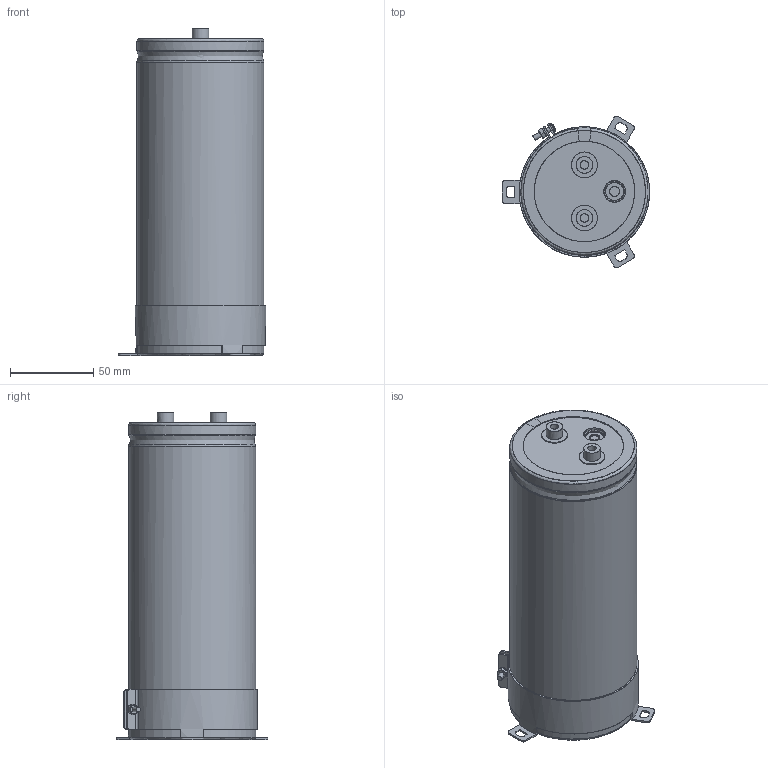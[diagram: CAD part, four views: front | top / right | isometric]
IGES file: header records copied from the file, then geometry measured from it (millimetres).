
Start section: JAMA-IS VERSION  1.0
Bounding box: 88.3 x 90.75 x 196 mm (x, y, z)
Surface area: 166443 mm2 (no closed solid volume)
Topology: 0 solids, 0 shells, 259 faces, 4448 edges, 4417 vertices
Faces by surface type: bspline 259
